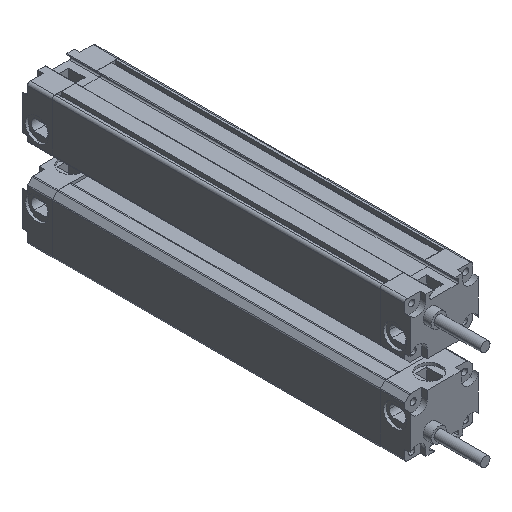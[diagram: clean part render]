
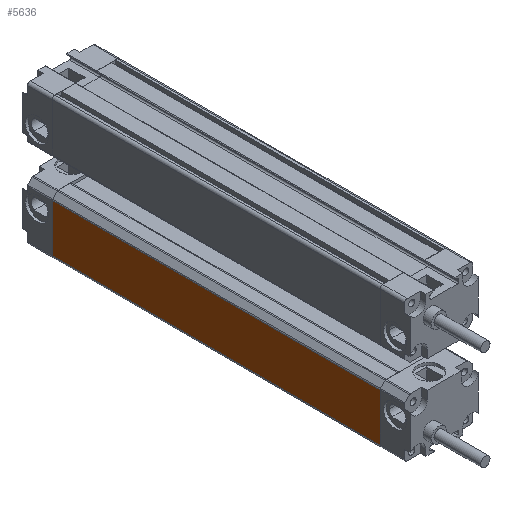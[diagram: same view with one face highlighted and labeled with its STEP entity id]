
A CAD part, isometric view. The second image highlights one B-rep face of the part: STEP entity #5636.
In plain terms, the highlighted planar face has unit normal (-1, 0, 0).
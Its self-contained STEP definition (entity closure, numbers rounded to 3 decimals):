
#76 = VERTEX_POINT ( 'NONE', #10175 ) ;
#194 = DIRECTION ( 'NONE',  ( 0., 1., 0. ) ) ;
#520 = FACE_OUTER_BOUND ( 'NONE', #3983, .T. ) ;
#842 = DIRECTION ( 'NONE',  ( 0., 0., 1. ) ) ;
#979 = EDGE_CURVE ( 'NONE', #1828, #9405, #2876, .T. ) ;
#1828 = VERTEX_POINT ( 'NONE', #10606 ) ;
#2266 = VECTOR ( 'NONE', #9647, 1000. ) ;
#2669 = CARTESIAN_POINT ( 'NONE',  ( -12.5, 0., 8.293 ) ) ;
#2800 = VERTEX_POINT ( 'NONE', #8449 ) ;
#2866 = AXIS2_PLACEMENT_3D ( 'NONE', #10613, #8030, #8814 ) ;
#2876 = LINE ( 'NONE', #8455, #7080 ) ;
#3204 = ORIENTED_EDGE ( 'NONE', *, *, #10801, .T. ) ;
#3649 = CARTESIAN_POINT ( 'NONE',  ( -12.5, -120., 8.293 ) ) ;
#3983 = EDGE_LOOP ( 'NONE', ( #9441, #6302, #3204, #10062 ) ) ;
#4298 = LINE ( 'NONE', #5265, #6142 ) ;
#5265 = CARTESIAN_POINT ( 'NONE',  ( -12.5, -120., -9.2 ) ) ;
#5636 = ADVANCED_FACE ( 'NONE', ( #520 ), #8889, .T. ) ;
#6142 = VECTOR ( 'NONE', #194, 1000. ) ;
#6172 = LINE ( 'NONE', #3649, #6965 ) ;
#6302 = ORIENTED_EDGE ( 'NONE', *, *, #6500, .F. ) ;
#6500 = EDGE_CURVE ( 'NONE', #76, #1828, #4298, .T. ) ;
#6965 = VECTOR ( 'NONE', #9472, 1000. ) ;
#7080 = VECTOR ( 'NONE', #842, 1000. ) ;
#7119 = EDGE_CURVE ( 'NONE', #2800, #9405, #6172, .T. ) ;
#8030 = DIRECTION ( 'NONE',  ( -1., 0., 0. ) ) ;
#8449 = CARTESIAN_POINT ( 'NONE',  ( -12.5, -120., 8.293 ) ) ;
#8455 = CARTESIAN_POINT ( 'NONE',  ( -12.5, 0., -9.2 ) ) ;
#8814 = DIRECTION ( 'NONE',  ( 0., 0., 1. ) ) ;
#8885 = CARTESIAN_POINT ( 'NONE',  ( -12.5, -120., -9.2 ) ) ;
#8889 = PLANE ( 'NONE',  #2866 ) ;
#9021 = LINE ( 'NONE', #8885, #2266 ) ;
#9405 = VERTEX_POINT ( 'NONE', #2669 ) ;
#9441 = ORIENTED_EDGE ( 'NONE', *, *, #979, .F. ) ;
#9472 = DIRECTION ( 'NONE',  ( 0., 1., 0. ) ) ;
#9647 = DIRECTION ( 'NONE',  ( 0., 0., 1. ) ) ;
#10062 = ORIENTED_EDGE ( 'NONE', *, *, #7119, .T. ) ;
#10175 = CARTESIAN_POINT ( 'NONE',  ( -12.5, -120., -9.2 ) ) ;
#10606 = CARTESIAN_POINT ( 'NONE',  ( -12.5, 0., -9.2 ) ) ;
#10613 = CARTESIAN_POINT ( 'NONE',  ( -12.5, -120., -9.2 ) ) ;
#10801 = EDGE_CURVE ( 'NONE', #76, #2800, #9021, .T. ) ;
